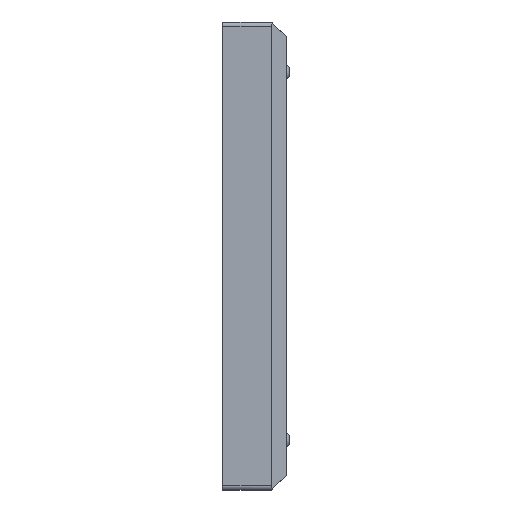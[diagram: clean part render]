
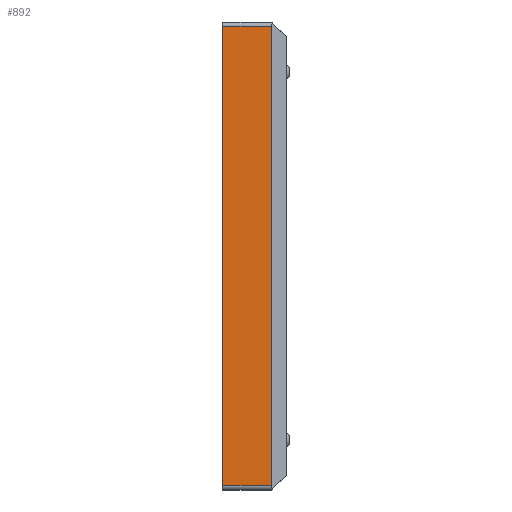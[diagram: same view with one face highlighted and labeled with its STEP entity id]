
A CAD part, left-side view. The second image highlights one B-rep face of the part: STEP entity #892.
In plain terms, the highlighted planar face has unit normal (-1, 0, 0).
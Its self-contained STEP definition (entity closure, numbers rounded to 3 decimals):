
#94 = CARTESIAN_POINT ( 'NONE',  ( -100., -11.7, 55. ) ) ;
#166 = CARTESIAN_POINT ( 'NONE',  ( -100., -15.2, -55. ) ) ;
#187 = ORIENTED_EDGE ( 'NONE', *, *, #1145, .T. ) ;
#304 = LINE ( 'NONE', #3094, #3460 ) ;
#310 = CARTESIAN_POINT ( 'NONE',  ( -100., 0., -55. ) ) ;
#432 = VECTOR ( 'NONE', #861, 1000. ) ;
#668 = DIRECTION ( 'NONE',  ( -1., 0., 0. ) ) ;
#730 = ORIENTED_EDGE ( 'NONE', *, *, #1166, .T. ) ;
#761 = CARTESIAN_POINT ( 'NONE',  ( -100., 0., 55. ) ) ;
#851 = CARTESIAN_POINT ( 'NONE',  ( -100., -11.7, 56. ) ) ;
#861 = DIRECTION ( 'NONE',  ( 0., 1., 0. ) ) ;
#892 = ADVANCED_FACE ( 'NONE', ( #2958 ), #3627, .T. ) ;
#944 = EDGE_CURVE ( 'NONE', #1241, #2678, #304, .T. ) ;
#1035 = EDGE_CURVE ( 'NONE', #1241, #1295, #3258, .T. ) ;
#1134 = ORIENTED_EDGE ( 'NONE', *, *, #944, .F. ) ;
#1145 = EDGE_CURVE ( 'NONE', #1295, #1501, #1327, .T. ) ;
#1166 = EDGE_CURVE ( 'NONE', #1501, #2678, #1229, .T. ) ;
#1229 = LINE ( 'NONE', #3803, #432 ) ;
#1241 = VERTEX_POINT ( 'NONE', #310 ) ;
#1295 = VERTEX_POINT ( 'NONE', #2270 ) ;
#1327 = LINE ( 'NONE', #851, #2916 ) ;
#1472 = DIRECTION ( 'NONE',  ( 0., 0., 1. ) ) ;
#1501 = VERTEX_POINT ( 'NONE', #94 ) ;
#1612 = VECTOR ( 'NONE', #3126, 1000. ) ;
#2270 = CARTESIAN_POINT ( 'NONE',  ( -100., -11.7, -55. ) ) ;
#2678 = VERTEX_POINT ( 'NONE', #761 ) ;
#2748 = CARTESIAN_POINT ( 'NONE',  ( -100., -15.2, -56. ) ) ;
#2766 = DIRECTION ( 'NONE',  ( 0., 0., 1. ) ) ;
#2916 = VECTOR ( 'NONE', #1472, 1000. ) ;
#2958 = FACE_OUTER_BOUND ( 'NONE', #3775, .T. ) ;
#3094 = CARTESIAN_POINT ( 'NONE',  ( -100., 0., -56. ) ) ;
#3126 = DIRECTION ( 'NONE',  ( 0., -1., 0. ) ) ;
#3258 = LINE ( 'NONE', #166, #1612 ) ;
#3390 = DIRECTION ( 'NONE',  ( 0., 0., 1. ) ) ;
#3460 = VECTOR ( 'NONE', #3390, 1000. ) ;
#3499 = AXIS2_PLACEMENT_3D ( 'NONE', #2748, #668, #2766 ) ;
#3627 = PLANE ( 'NONE',  #3499 ) ;
#3755 = ORIENTED_EDGE ( 'NONE', *, *, #1035, .T. ) ;
#3775 = EDGE_LOOP ( 'NONE', ( #1134, #3755, #187, #730 ) ) ;
#3803 = CARTESIAN_POINT ( 'NONE',  ( -100., -15.2, 55. ) ) ;
